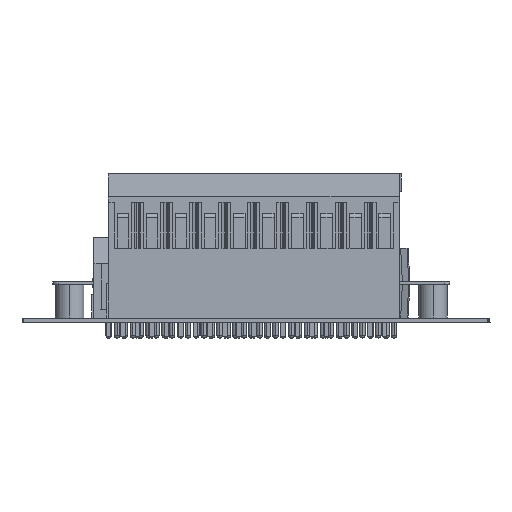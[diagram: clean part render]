
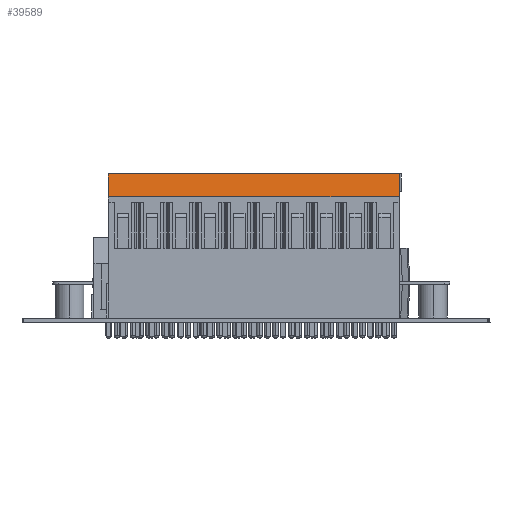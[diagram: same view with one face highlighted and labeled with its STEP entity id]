
A CAD part, left-side view. The second image highlights one B-rep face of the part: STEP entity #39589.
In plain terms, the highlighted planar face has unit normal (-0.989, 0, 0.148) as drawn and (0, -0.989, 0.148) by its records, which use the part's own axes.
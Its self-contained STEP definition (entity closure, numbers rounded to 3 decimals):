
#5413 = DIRECTION ( 'NONE',  ( 0., 0.148, 0.989 ) ) ;
#6298 = EDGE_CURVE ( 'NONE', #97467, #113805, #84666, .T. ) ;
#6949 = ORIENTED_EDGE ( 'NONE', *, *, #62836, .F. ) ;
#12120 = AXIS2_PLACEMENT_3D ( 'NONE', #50959, #87521, #5413 ) ;
#13200 = CARTESIAN_POINT ( 'NONE',  ( 41.519, -9.2, 25.2 ) ) ;
#13425 = EDGE_CURVE ( 'NONE', #112962, #97467, #56935, .T. ) ;
#14518 = DIRECTION ( 'NONE',  ( 0., -0.148, -0.989 ) ) ;
#17292 = ORIENTED_EDGE ( 'NONE', *, *, #84335, .T. ) ;
#27163 = CARTESIAN_POINT ( 'NONE',  ( -24.13, -9.2, 25.2 ) ) ;
#28148 = VECTOR ( 'NONE', #58368, 1000. ) ;
#28420 = ORIENTED_EDGE ( 'NONE', *, *, #6298, .T. ) ;
#29710 = CARTESIAN_POINT ( 'NONE',  ( 26.67, -9.8, 21.2 ) ) ;
#30302 = CARTESIAN_POINT ( 'NONE',  ( 26.67, -9.2, 25.2 ) ) ;
#33555 = VECTOR ( 'NONE', #93510, 1000. ) ;
#33580 = PLANE ( 'NONE',  #12120 ) ;
#37672 = VERTEX_POINT ( 'NONE', #29710 ) ;
#39589 = ADVANCED_FACE ( 'NONE', ( #49784 ), #33580, .F. ) ;
#40380 = LINE ( 'NONE', #76931, #28148 ) ;
#48498 = VECTOR ( 'NONE', #95783, 1000. ) ;
#49291 = CARTESIAN_POINT ( 'NONE',  ( -24.13, -9.2, 25.2 ) ) ;
#49784 = FACE_OUTER_BOUND ( 'NONE', #55327, .T. ) ;
#50959 = CARTESIAN_POINT ( 'NONE',  ( 41.519, -9.2, 25.2 ) ) ;
#55327 = EDGE_LOOP ( 'NONE', ( #94431, #28420, #6949, #17292 ) ) ;
#56935 = LINE ( 'NONE', #13200, #33555 ) ;
#58368 = DIRECTION ( 'NONE',  ( 0., 0.148, 0.989 ) ) ;
#59805 = CARTESIAN_POINT ( 'NONE',  ( 41.519, -9.8, 21.2 ) ) ;
#60828 = CARTESIAN_POINT ( 'NONE',  ( -24.13, -9.8, 21.2 ) ) ;
#62836 = EDGE_CURVE ( 'NONE', #37672, #113805, #113731, .T. ) ;
#74913 = VECTOR ( 'NONE', #14518, 1000. ) ;
#76931 = CARTESIAN_POINT ( 'NONE',  ( 26.67, -9.2, 25.2 ) ) ;
#84335 = EDGE_CURVE ( 'NONE', #37672, #112962, #40380, .T. ) ;
#84666 = LINE ( 'NONE', #49291, #74913 ) ;
#87521 = DIRECTION ( 'NONE',  ( 0., 0.989, -0.148 ) ) ;
#93510 = DIRECTION ( 'NONE',  ( -1., 0., 0. ) ) ;
#94431 = ORIENTED_EDGE ( 'NONE', *, *, #13425, .T. ) ;
#95783 = DIRECTION ( 'NONE',  ( -1., 0., 0. ) ) ;
#97467 = VERTEX_POINT ( 'NONE', #27163 ) ;
#112962 = VERTEX_POINT ( 'NONE', #30302 ) ;
#113731 = LINE ( 'NONE', #59805, #48498 ) ;
#113805 = VERTEX_POINT ( 'NONE', #60828 ) ;
